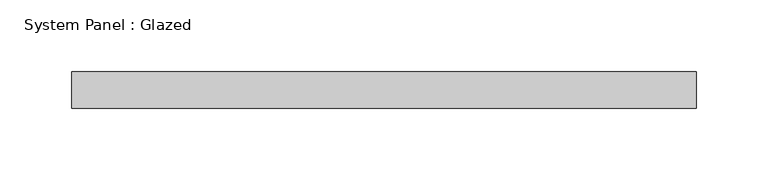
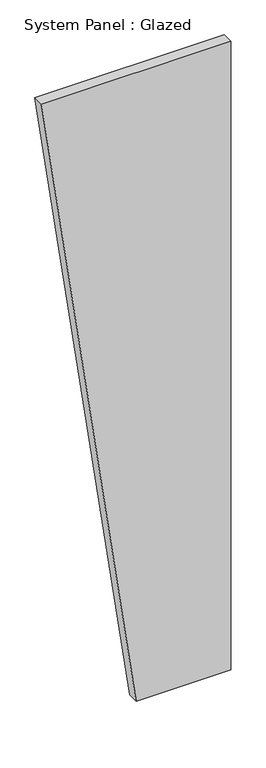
"""IFC4 building model written with IfcOpenShell, lengths in millimetres: plate geometry, System Panel : Glazed."""

import ifcopenshell
import ifcopenshell.guid

model = None  # the IFC model being written
_history = None  # IfcOwnerHistory: only IFC2X3 demands one
_inside = {}  # id of a spatial element -> (the spatial element, [elements in it])
_under = {}  # id of a project, library or spatial element -> (it, [spatial elements below it])
_declared = {}  # id of a project -> (the project, [libraries it declares])
_typed = {}  # id of a type object -> (the type object, [elements of that type])
_made_of = {}  # id of a material, layer set ... -> (it, [elements and type objects made of it])


def new_model(schema):
    """Start an empty IFC model of exactly this schema.

    Asked for "IFC4X3", IfcOpenShell would pick the latest addendum, in which some entities
    have other attributes; the version numbers below select the first issue.
    IFC2X3 requires an IfcOwnerHistory on every rooted entity: one is made here for all.
    """
    global model, _history
    if schema == "IFC4X3":
        model = ifcopenshell.file(schema_version=(4, 3, 0, 0))
    else:
        model = ifcopenshell.file(schema=schema)
    _inside.clear()
    _under.clear()
    _declared.clear()
    _typed.clear()
    _made_of.clear()
    _history = None
    if model.schema == "IFC2X3":
        org = make("IfcOrganization", Name="unknown")
        user = make(
            "IfcPersonAndOrganization",
            ThePerson=make("IfcPerson", FamilyName="unknown"),
            TheOrganization=org,
        )
        app = make(
            "IfcApplication",
            ApplicationDeveloper=org,
            Version="unknown",
            ApplicationFullName="unknown",
            ApplicationIdentifier="unknown",
        )
        _history = make(
            "IfcOwnerHistory",
            OwningUser=user,
            OwningApplication=app,
            ChangeAction="ADDED",
            CreationDate=0,
        )
    return model


def make(cls, **values):
    """One entity of the class cls with the attributes given. An attribute that is None is left unset."""
    return model.create_entity(
        cls, **{name: value for name, value in values.items() if value is not None}
    )


def rooted(cls, **values):
    """An entity with a GlobalId (a new one), such as an element, a storey or a relation."""
    return make(cls, GlobalId=ifcopenshell.guid.new(), OwnerHistory=_history, **values)


def si_unit(unit_type, name, prefix=None):
    """IfcSIUnit, for example si_unit("LENGTHUNIT", "METRE", prefix="MILLI")."""
    return make("IfcSIUnit", UnitType=unit_type, Prefix=prefix, Name=name)


def assignment(units):
    """IfcUnitAssignment: the units of a project."""
    return None if units is None else make("IfcUnitAssignment", Units=units)


def point(xyz):
    """IfcCartesianPoint."""
    return None if xyz is None else make("IfcCartesianPoint", Coordinates=xyz)


def direction(xyz):
    """IfcDirection."""
    return None if xyz is None else make("IfcDirection", DirectionRatios=xyz)


def frame(location, z_axis=None, x_axis=None):
    """IfcAxis2Placement3D, a coordinate frame: its origin and axes. An axis left out is left unset."""
    return make(
        "IfcAxis2Placement3D",
        Location=point(location),
        Axis=direction(z_axis),
        RefDirection=direction(x_axis),
    )


def origin():
    """The frame at (0, 0, 0) with its axes left unset."""
    return frame((0.0, 0.0, 0.0))


def place(relative_to, where):
    """IfcLocalPlacement: puts the frame where relative to a parent placement (None: the world)."""
    return make(
        "IfcLocalPlacement", PlacementRelTo=relative_to, RelativePlacement=where
    )


def context(
    kind, dimensions, precision=None, world=None, true_north=None, identifier=None
):
    """IfcGeometricRepresentationContext, for example the 3D "Model" context."""
    return make(
        "IfcGeometricRepresentationContext",
        ContextIdentifier=identifier,
        ContextType=kind,
        CoordinateSpaceDimension=dimensions,
        Precision=precision,
        WorldCoordinateSystem=world,
        TrueNorth=true_north,
    )


def project(units=None, contexts=None):
    """IfcProject with its units and contexts."""
    return rooted(
        "IfcProject",
        Name="project",
        RepresentationContexts=contexts,
        UnitsInContext=assignment(units),
    )


def spatial(cls, under=None, at=None, **own):
    """A site, building, storey or space (cls), placed at a placement, below another one or the project."""
    s = rooted(cls, ObjectPlacement=at, **own)
    if under is not None:
        _under.setdefault(under.id(), (under, []))[1].append(s)
    return s


def polyline(points):
    """IfcPolyline through the points."""
    return make("IfcPolyline", Points=[point(p) for p in points])


def outline(outer, holes=None, kind="AREA"):
    """IfcArbitraryClosedProfileDef: a profile drawn as a closed curve; with holes, ...WithVoids."""
    if holes is None:
        return make("IfcArbitraryClosedProfileDef", ProfileType=kind, OuterCurve=outer)
    return make(
        "IfcArbitraryProfileDefWithVoids",
        ProfileType=kind,
        OuterCurve=outer,
        InnerCurves=holes,
    )


def extrude(swept, where, along, depth):
    """IfcExtrudedAreaSolid: the profile swept, set in the frame where, extruded along a direction by depth."""
    return make(
        "IfcExtrudedAreaSolid",
        SweptArea=swept,
        Position=where,
        ExtrudedDirection=direction(along),
        Depth=depth,
    )


def shape(context_of_items, identifier, shape_type, items):
    """IfcShapeRepresentation: the items that make up one representation, for example the "Body"."""
    return make(
        "IfcShapeRepresentation",
        ContextOfItems=context_of_items,
        RepresentationIdentifier=identifier,
        RepresentationType=shape_type,
        Items=items,
    )


def source(mapping_origin, context_of_items, identifier, shape_type, items):
    """IfcRepresentationMap: a shape defined once, which mapped items show again and again."""
    return make(
        "IfcRepresentationMap",
        MappingOrigin=mapping_origin,
        MappedRepresentation=shape(context_of_items, identifier, shape_type, items),
    )


def transform(
    local_origin,
    x_axis=None,
    y_axis=None,
    z_axis=None,
    scale=None,
    scale2=None,
    scale3=None,
    uniform=True,
):
    """IfcCartesianTransformationOperator3D, or its non-uniform kind. x_axis, y_axis, z_axis: its Axis1, 2, 3."""
    if uniform:
        return make(
            "IfcCartesianTransformationOperator3D",
            Axis1=direction(x_axis),
            Axis2=direction(y_axis),
            LocalOrigin=point(local_origin),
            Scale=scale,
            Axis3=direction(z_axis),
        )
    return make(
        "IfcCartesianTransformationOperator3DnonUniform",
        Axis1=direction(x_axis),
        Axis2=direction(y_axis),
        LocalOrigin=point(local_origin),
        Scale=scale,
        Axis3=direction(z_axis),
        Scale2=scale2,
        Scale3=scale3,
    )


def mapped(mapping_source, mapping_target):
    """IfcMappedItem: shows the shape of a source again, moved by a transform."""
    return make(
        "IfcMappedItem", MappingSource=mapping_source, MappingTarget=mapping_target
    )


def made_of(thing, what):
    """Note that an element or type object is made of a material, layer set ...; save() writes the relation."""
    if what is not None:
        _made_of.setdefault(what.id(), (what, []))[1].append(thing)
    return thing


def element(
    cls,
    number,
    at=None,
    inside=None,
    cuts=None,
    type_object=None,
    material=None,
    context=None,
    identifier="Body",
    shape_type=None,
    held_by="IfcProductDefinitionShape",
    body=None,
    shapes=None,
    **own,
):
    """One element of the class cls, such as IfcWall. Its Tag is "e" and its number.

    at: its placement. inside: the storey or other place that contains it. cuts: it is an
    opening in that element (IfcRelVoidsElement). A single representation is given by context,
    identifier, shape_type and body (its items); several are given by shapes. held_by: the class
    of the entity that holds the representations. save() writes the other relations.
    """
    e = rooted(cls, Tag="e%d" % number, ObjectPlacement=at, **own)
    if body is not None:
        shapes = [shape(context, identifier, shape_type, body)]
    if shapes is not None:
        e.Representation = make(held_by, Representations=shapes)
    if inside is not None:
        _inside.setdefault(inside.id(), (inside, []))[1].append(e)
    if cuts is not None:
        rooted(
            "IfcRelVoidsElement", RelatingBuildingElement=cuts, RelatedOpeningElement=e
        )
    if type_object is not None:
        _typed.setdefault(type_object.id(), (type_object, []))[1].append(e)
    return made_of(e, material)


def aggregate(whole, parts):
    """IfcRelAggregates: a whole, such as a stair, and the parts it consists of."""
    return rooted("IfcRelAggregates", RelatingObject=whole, RelatedObjects=parts)


def save(model, path):
    """Write the relations noted so far, then the file.

    IfcRelAggregates (storeys below a building ...), IfcRelContainedInSpatialStructure (elements
    in a storey), IfcRelDefinesByType, IfcRelAssociatesMaterial and IfcRelDeclares: one each for
    every whole, place, type object, material and project.
    """
    for whole, parts in _under.values():
        aggregate(whole, parts)
    for where, things in _inside.values():
        rooted(
            "IfcRelContainedInSpatialStructure",
            RelatedElements=things,
            RelatingStructure=where,
        )
    for kind, things in _typed.values():
        rooted("IfcRelDefinesByType", RelatedObjects=things, RelatingType=kind)
    for what, things in _made_of.values():
        rooted("IfcRelAssociatesMaterial", RelatedObjects=things, RelatingMaterial=what)
    for by, libraries in _declared.values():
        rooted("IfcRelDeclares", RelatingContext=by, RelatedDefinitions=libraries)
    model.write(path)


def system_panel_glazed_c480d13c(model_context):
    return source(origin(), model_context, "Body", "SweptSolid", [
        extrude(outline(polyline([(0.0, -2e-07), (0.0, 217.0453553), (1524.0, 217.0453553), (1524.0, -217.0453553), (0.0, -2e-07)])), frame((0.0, 19.05, 0.0), z_axis=(0.0, 1.0, 0.0), x_axis=(0.0, 0.0, 1.0)), (0.0, 0.0, 1.0), 25.4),
    ])


if __name__ == "__main__":
    model = new_model("IFC4")
    model_context = context("Model", 3, world=origin())
    ifc_project = project(units=[si_unit("LENGTHUNIT", "METRE", prefix="MILLI")], contexts=[model_context])
    site = spatial("IfcSite", under=ifc_project)
    building = spatial("IfcBuilding", under=site)
    placement = place(None, origin())
    system_panel_glazed_shape = system_panel_glazed_c480d13c(model_context)
    element("IfcPlate", 1, ObjectType="System Panel : Glazed", at=placement, inside=building, context=model_context, shape_type="MappedRepresentation", body=[
        mapped(system_panel_glazed_shape, transform((0.0, 0.0, 0.0), x_axis=(1.0, 0.0, 0.0), y_axis=(0.0, 1.0, 0.0), z_axis=(0.0, 0.0, 1.0))),
    ])
    save(model, "model.ifc")
